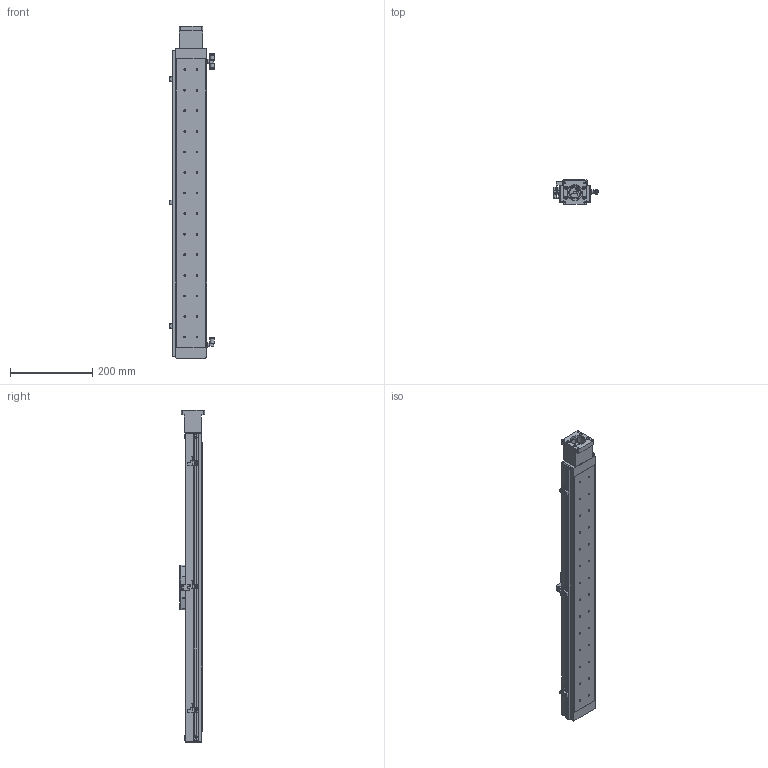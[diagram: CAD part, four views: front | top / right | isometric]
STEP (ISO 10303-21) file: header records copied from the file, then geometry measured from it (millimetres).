
FILE_DESCRIPTION((''),'2;1');
FILE_NAME('E:\catalogue and flyer\actuator catalogue 2015\dwg fr wg\UIA076CR9DC\UIA076CR9DC-stp file 05May16\UIA076CR9DC-600-R12_ _-M23-P13-C10-S.stp','2016-05-05T13:28:02',('h029'),(''),'Autodesk Inventor 11','Autodesk Inventor 11','');
FILE_SCHEMA(('AUTOMOTIVE_DESIGN { 1 0 10303 214 1 1 1 1 }'));
Length unit declared in the file: millimetre
Products named in the file (14): UIA076CR9DC-600; UIA076CR9DC-body; carriage-076CR; SOH25C; side 2; side 1; centre piece; 26-100 0071 sensor flag; GWL4-M5; GWT4-M5; 26-100 0110-M23; Sensor rail; Sensor Bracket ; Sensor
Assembly tree (17 placements, depth 3):
  UIA076CR9DC-600
    UIA076CR9DC-body
    carriage-076CR
    SOH25C
      side 2
      side 1
      centre piece
    26-100 0071 sensor flag
    GWL4-M5
    GWT4-M5
    26-100 0110-M23
    Sensor rail
    Sensor Bracket   x3
    Sensor  x3
Bounding box: 108.1 x 61 x 807 mm (x, y, z)
Volume: 2493624.2 mm3; surface area: 297368.7 mm2
Topology: 18 solids, 18 shells, 713 faces, 1818 edges, 1175 vertices
Faces by surface type: plane 355, bspline 180, cylinder 152, sphere 16, cone 10
Full cylindrical faces by diameter (mm): 2.459 x4, 2.5 x3, 8 x2, 25.5 x3, 30 x1, 37 x1, 38.1 x1
Entity records: 20161 total; most frequent: CARTESIAN_POINT 5943, DIRECTION 2813, ORIENTED_EDGE 2722, EDGE_CURVE 1361, AXIS2_PLACEMENT_3D 1002, VERTEX_POINT 945, EDGE_LOOP 862, VECTOR 809
